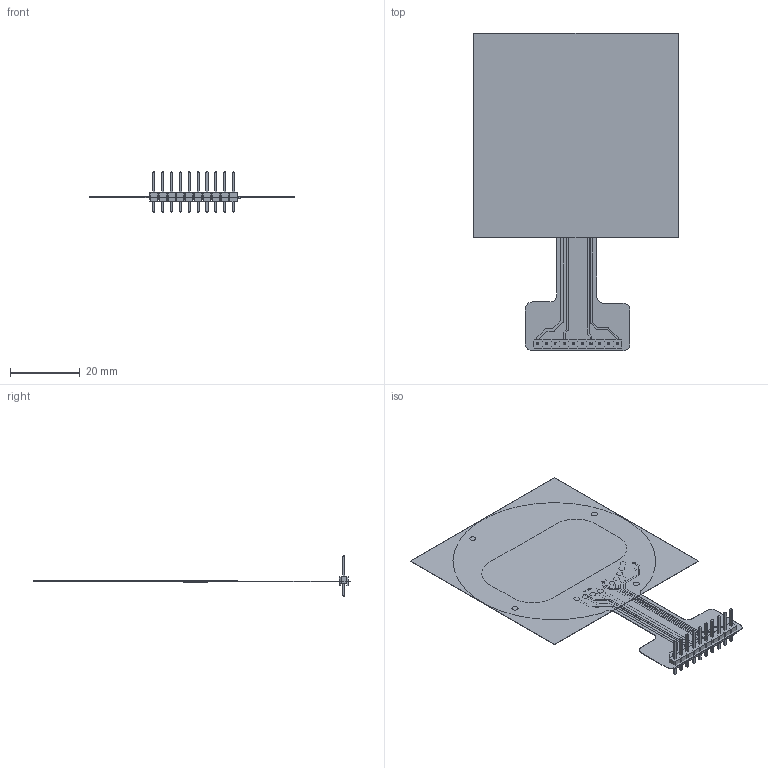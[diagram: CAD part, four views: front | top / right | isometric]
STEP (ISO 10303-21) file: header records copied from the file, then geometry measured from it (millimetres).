
FILE_DESCRIPTION(/* description */ (''),/* implementation_level */ '2;1');
FILE_NAME(/* name */ 'EMountIface.step',/* time_stamp */ '2026-11-14T21:04:25-07:00',/* author */ (''),/* organization */ (''),/* preprocessor_version */ 'ST-DEVELOPER v20.2',/* originating_system */ 'Autodesk Translation Framework v15.17.0.0',/* authorisation */ '');
FILE_SCHEMA (('AUTOMOTIVE_DESIGN { 1 0 10303 214 3 1 1 }'));
Length unit declared in the file: millimetre
Products named in the file (11): 2026-11-14-21-04-24-951; 2026-11-14-21-04-24-952; 2026-11-14-21-04-24-955; 2026-11-14-21-04-24-958; 2026-11-14-21-04-24-964; 2026-11-14-21-04-24-965; 2026-11-14-21-04-24-972; 2026-11-14-21-04-24-973; 2026-11-14-21-04-24-973_1; 2026-11-14-21-04-24-974; 2026-11-14-21-04-24-976
Assembly tree (19 placements, depth 4):
  2026-11-14-21-04-24-951
    2026-11-14-21-04-24-952
    2026-11-14-21-04-24-955
    2026-11-14-21-04-24-958
    2026-11-14-21-04-24-964
    2026-11-14-21-04-24-965
    2026-11-14-21-04-24-972
      2026-11-14-21-04-24-973
      2026-11-14-21-04-24-973_1
        2026-11-14-21-04-24-974  x10
        2026-11-14-21-04-24-976
Bounding box: 58.65 x 91.14 x 11.54 mm (x, y, z)
Volume: 926.6 mm3; surface area: 21906.3 mm2
Topology: 83 solids, 83 shells, 1017 faces, 2473 edges, 1622 vertices
Faces by surface type: plane 667, cylinder 350
Full cylindrical faces by diameter (mm): 0.38 x12, 0.45 x16, 1.03 x50, 1.1 x40, 1.75 x12
Entity records: 27670 total; most frequent: DIRECTION 4763, CARTESIAN_POINT 4620, ORIENTED_EDGE 4442, EDGE_CURVE 2221, AXIS2_PLACEMENT_3D 1621, LINE 1521, VECTOR 1521, VERTEX_POINT 1478
